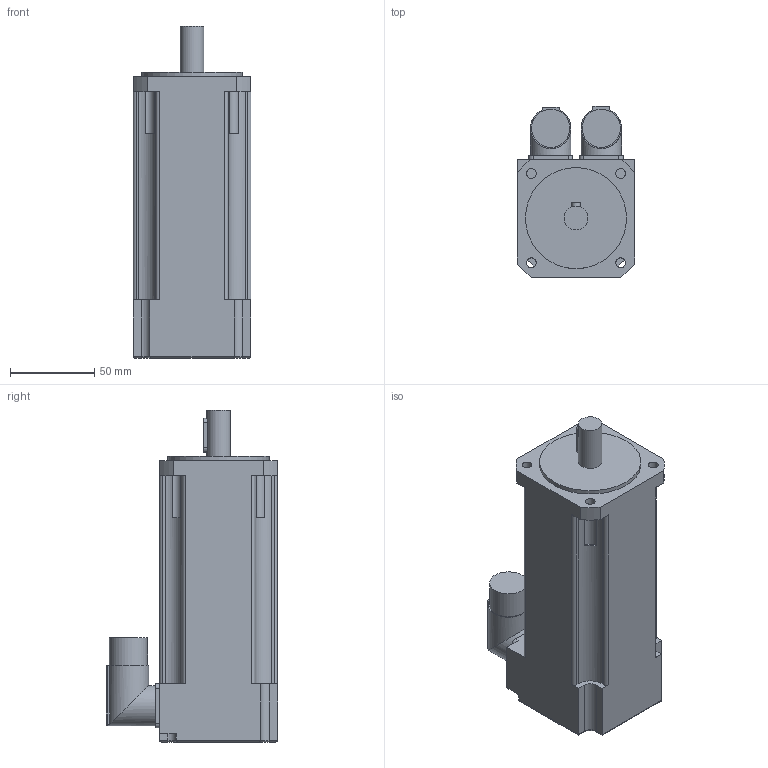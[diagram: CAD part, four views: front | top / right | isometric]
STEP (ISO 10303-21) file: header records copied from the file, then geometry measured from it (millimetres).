
FILE_DESCRIPTION(/* description */ (''),/* implementation_level */ '2;1');
FILE_NAME(/* name */ '\\Lafnas01\disegni\Archivi Lafert\3D\CAD 3D\MODELLI\Assiemi clienti\Serad\Modelli 3D Serad\B36Q\Resolver\Res Without Brake\B36F4Qxx6A052033.ipt.stp',/* time_stamp */ '2015-09-07T10:49:36+02:00',/* author */ ('Pastrello Ylenia'),/* organization */ (''),/* preprocessor_version */ 'ST-DEVELOPER v15.6',/* originating_system */ 'Autodesk Inventor 2015',/* authorisation */ '');
FILE_SCHEMA (('AUTOMOTIVE_DESIGN { 1 0 10303 214 3 1 1 }'));
Length unit declared in the file: millimetre
Products named in the file (1): B36F4Qxx6A052033
Bounding box: 70 x 101.5 x 197 mm (x, y, z)
Volume: 792918.3 mm3; surface area: 65367.9 mm2
Topology: 1 solids, 1 shells, 121 faces, 322 edges, 210 vertices
Faces by surface type: plane 59, cylinder 58, torus 4
Full cylindrical faces by diameter (mm): 5.8 x4, 14 x1, 22.7 x2, 24 x2, 60 x1
Entity records: 3806 total; most frequent: CARTESIAN_POINT 678, DIRECTION 676, ORIENTED_EDGE 624, EDGE_CURVE 312, AXIS2_PLACEMENT_3D 244, VERTEX_POINT 210, LINE 188, VECTOR 188
